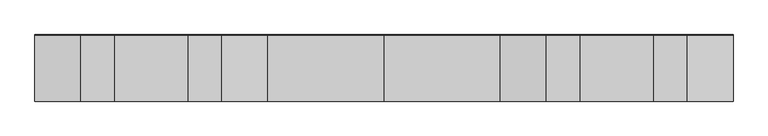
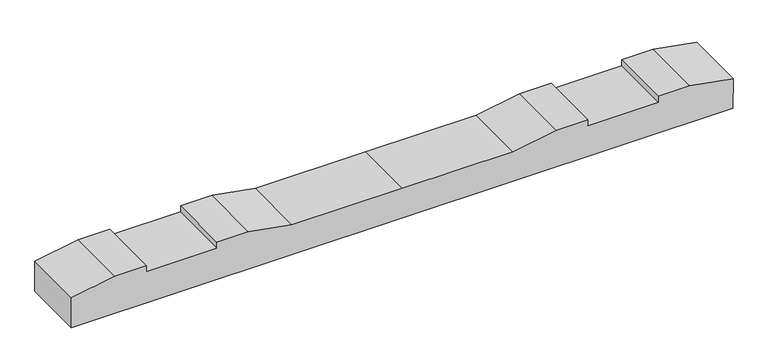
"""IFC4 building model written with IfcOpenShell, lengths in millimetres: proxy geometry, 轨枕-立面角度 : 轨枕-立面角度."""

from ifc_helpers import new_model, si_unit, frame, origin, place, context, project, spatial, polyline, outline, extrude, source, transform, mapped, element, save


def generic_models_dd2f06ac(model_context):
    return source(origin(), model_context, "Body", "SweptSolid", [
        extrude(outline(polyline([(0.0, 0.0), (2099.7669328, 0.0), (2099.7669328, -100.020689), (1961.8834664, -124.5), (1861.8834664, -124.5), (1861.8834664, -104.5), (1637.8834664, -104.5), (1637.8834664, -124.5), (1537.8834664, -124.5), (1399.8834664, -100.0), (1049.8834664, -100.0), (699.8834664, -100.0), (561.8834664, -124.5), (461.8834664, -124.5), (461.8834664, -104.5), (237.8834664, -104.5), (237.8834664, -124.5), (137.8834664, -124.5), (0.0, -100.020689), (0.0, 0.0)])), frame((-1049.8834664, -99.5682895, -104.9114185), z_axis=(0.0, 0.9999915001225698, 0.0041230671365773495), x_axis=(1.0, 0.0, 0.0)), (0.0, 0.0, 1.0), 200.0),
    ])


if __name__ == "__main__":
    model = new_model("IFC4")
    model_context = context("Model", 3, world=origin())
    ifc_project = project(units=[si_unit("LENGTHUNIT", "METRE", prefix="MILLI")], contexts=[model_context])
    site = spatial("IfcSite", under=ifc_project)
    building = spatial("IfcBuilding", under=site)
    placement = place(None, origin())
    generic_models_shape = generic_models_dd2f06ac(model_context)
    element("IfcBuildingElementProxy", 1, Name="轨枕-立面角度 : 轨枕-立面角度", ObjectType="轨枕-立面角度 : 轨枕-立面角度", at=placement, inside=building, context=model_context, shape_type="MappedRepresentation", body=[
        mapped(generic_models_shape, transform((0.0, 0.0, 0.0), x_axis=(1.0, 0.0, 0.0), y_axis=(0.0, 1.0, 0.0), z_axis=(0.0, 0.0, 1.0))),
    ])
    save(model, "model.ifc")
